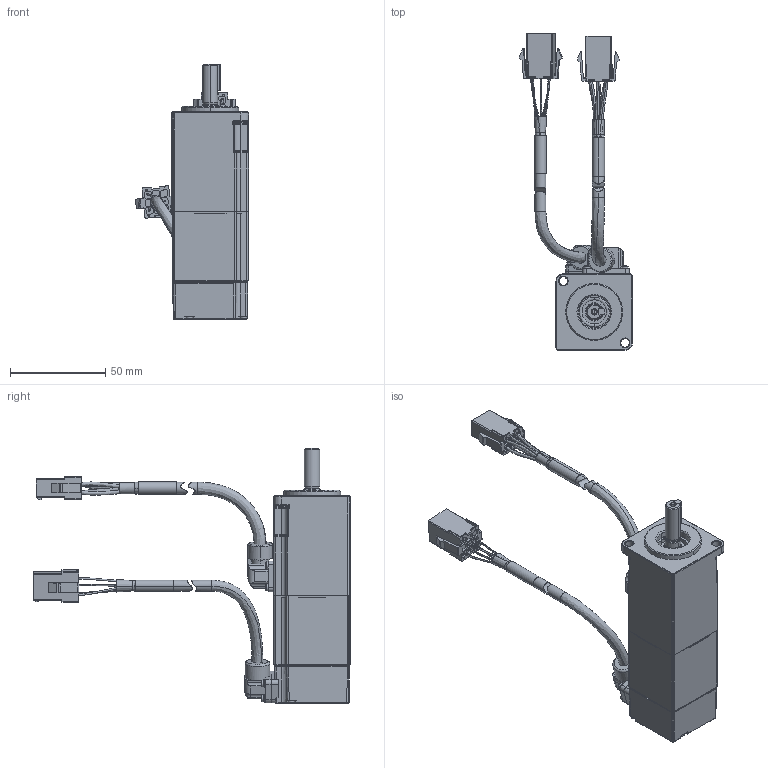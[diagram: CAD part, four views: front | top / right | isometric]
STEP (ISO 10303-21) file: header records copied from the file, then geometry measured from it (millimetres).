
FILE_DESCRIPTION (( 'STEP AP214' ), '1' );
FILE_NAME ('4030402-□□□□_交流永磁同步伺服电动机_DM1M-01A40[]8B_A1.STEP', '2020-11-17T01:32:38', ( '' ), ( '' ), 'SwSTEP 2.0', 'SolidWorks 2018', '' );
FILE_SCHEMA (( 'AUTOMOTIVE_DESIGN' ));
Length unit declared in the file: millimetre
Products named in the file (1): 4030402-□□□□_交流永磁同步伺服电动机_DM1M-01A40[]8B_A1
Bounding box: 59.49 x 166.65 x 134.3 mm (x, y, z)
Surface area: 36666.5 mm2 (no closed solid volume)
Topology: 0 solids, 65 shells, 1099 faces, 3983 edges, 2856 vertices
Faces by surface type: plane 531, cylinder 344, bspline 95, cone 50, torus 45, sphere 34
Entity records: 58328 total; most frequent: CARTESIAN_POINT 13553, DIRECTION 6639, ORIENTED_EDGE 6277, EDGE_CURVE 3974, VERTEX_POINT 2856, LINE 2361, VECTOR 2361, AXIS2_PLACEMENT_3D 2139
